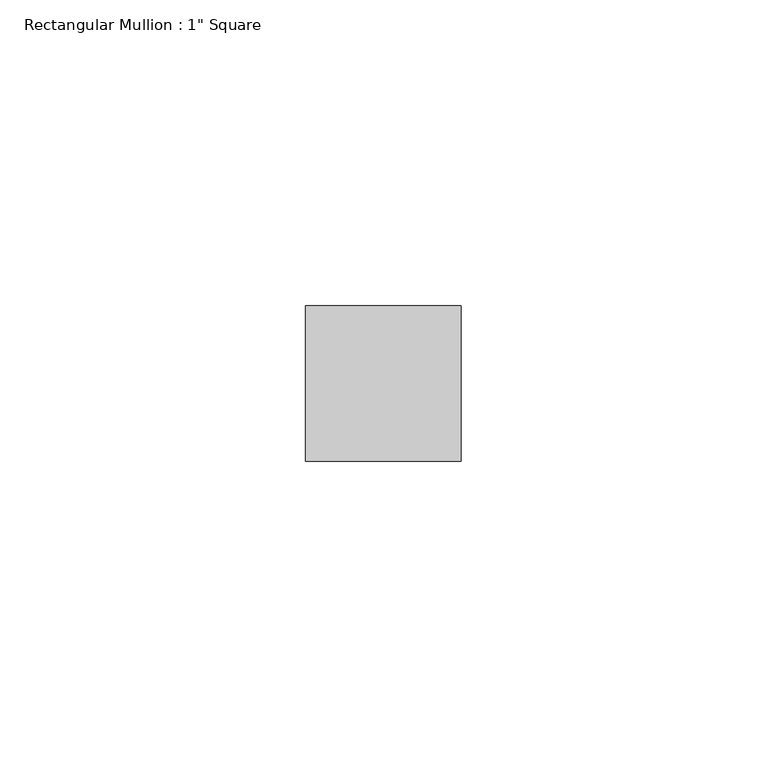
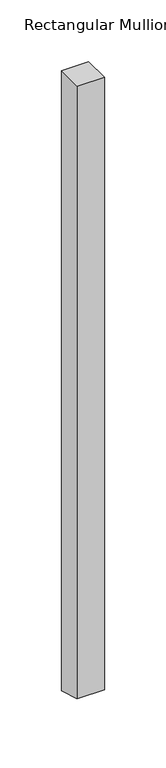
"""IFC4 building model written with IfcOpenShell, lengths in millimetres: member geometry."""

from ifc_helpers import new_model, si_unit, origin, place, context, project, spatial, faceted_brep, source, transform, mapped, element, save


def member_69edc900(model_context):
    return source(origin(), model_context, "Body", "Brep", [
        faceted_brep([(0.0, 12.7, 0.0), (-25.4, 12.7, 0.0), (-25.4, -12.7, 0.0), (0.0, -12.7, 0.0), (0.0, 12.7, -613.3084345), (-25.4, 12.7, -613.3215127), (-25.4, -12.7, -605.9046436), (0.0, -12.7, -605.8915655)], [[[0, 1, 2, 3]], [[1, 0, 4, 5]], [[2, 1, 5, 6]], [[3, 2, 6, 7]], [[0, 3, 7, 4]], [[4, 7, 6, 5]]]),
    ])


if __name__ == "__main__":
    model = new_model("IFC4")
    model_context = context("Model", 3, world=origin())
    ifc_project = project(units=[si_unit("LENGTHUNIT", "METRE", prefix="MILLI")], contexts=[model_context])
    site = spatial("IfcSite", under=ifc_project)
    building = spatial("IfcBuilding", under=site)
    placement = place(None, origin())
    member_shape = member_69edc900(model_context)
    element("IfcMember", 1, ObjectType="Rectangular Mullion : 1\" Square", at=placement, inside=building, context=model_context, shape_type="MappedRepresentation", body=[
        mapped(member_shape, transform((0.0, 0.0, 0.0), x_axis=(1.0, 0.0, 0.0), y_axis=(0.0, 1.0, 0.0), z_axis=(0.0, 0.0, 1.0))),
    ])
    save(model, "model.ifc")
